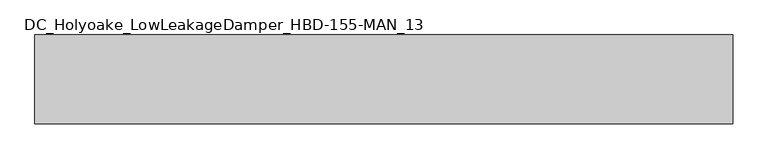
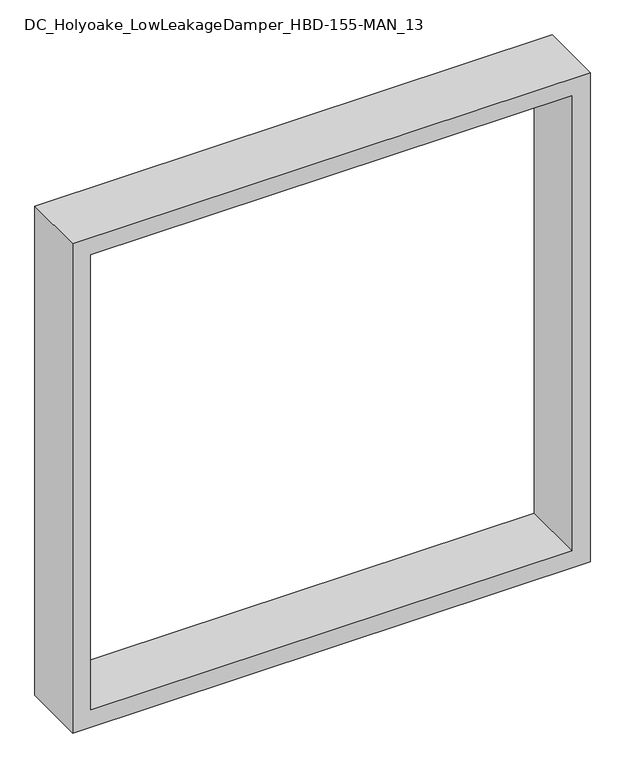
"""IFC4 building model written with IfcOpenShell, lengths in millimetres: damper geometry, DC_Holyoake_LowLeakageDamper_HBD-155-MAN_13 : Variable Width & Height."""

from ifc_helpers import new_model, si_unit, frame, origin, place, context, project, spatial, polyline, outline, extrude, source, transform, mapped, element, save


def dc_holyoake_lowleakagedamper_hbd_155_man_13_40de1610(model_context):
    return source(origin(), model_context, "Body", "SweptSolid", [
        extrude(outline(polyline([(1000.8182368, 1000.0), (1000.8182368, 0.0), (0.8182368, 0.0), (0.8182368, 1000.0), (1000.8182368, 1000.0)]), holes=[polyline([(35.8182368, 965.0), (35.8182368, 35.0), (965.8182368, 35.0), (965.8182368, 965.0), (35.8182368, 965.0)])]), frame((0.0, 0.0, 0.0), z_axis=(0.0, 1.0, 0.0), x_axis=(0.0, 0.0, 1.0)), (0.0, 0.0, 1.0), 127.0),
    ])


if __name__ == "__main__":
    model = new_model("IFC4")
    model_context = context("Model", 3, world=origin())
    ifc_project = project(units=[si_unit("LENGTHUNIT", "METRE", prefix="MILLI")], contexts=[model_context])
    site = spatial("IfcSite", under=ifc_project)
    building = spatial("IfcBuilding", under=site)
    placement = place(None, origin())
    dc_holyoake_lowleakagedamper_hbd_155_man_13_shape = dc_holyoake_lowleakagedamper_hbd_155_man_13_40de1610(model_context)
    element("IfcDamper", 1, ObjectType="DC_Holyoake_LowLeakageDamper_HBD-155-MAN_13 : Variable Width & Height", at=placement, inside=building, context=model_context, shape_type="MappedRepresentation", body=[
        mapped(dc_holyoake_lowleakagedamper_hbd_155_man_13_shape, transform((0.0, 0.0, 0.0), x_axis=(1.0, 0.0, 0.0), y_axis=(0.0, 1.0, 0.0), z_axis=(0.0, 0.0, 1.0))),
    ])
    save(model, "model.ifc")
